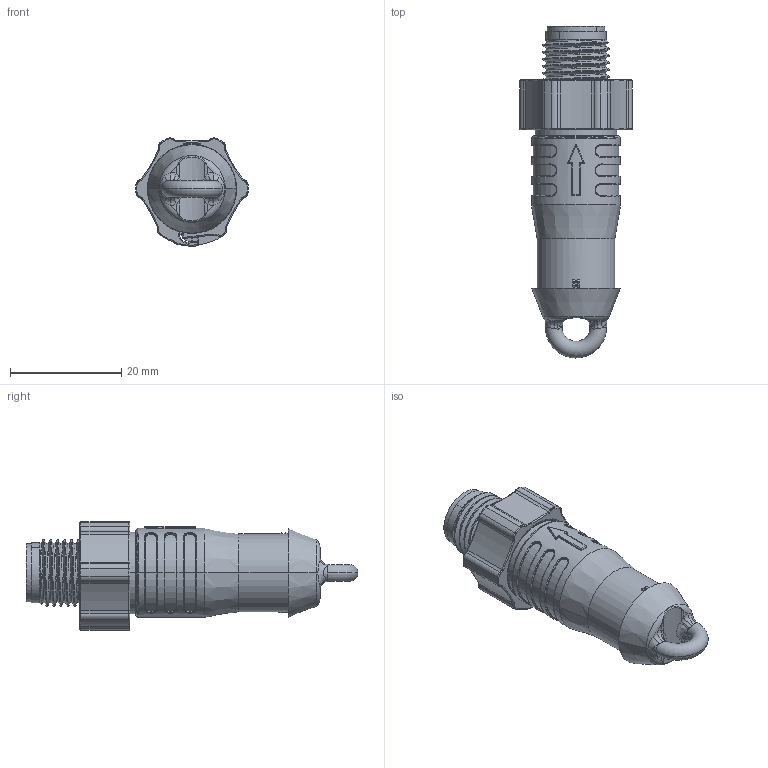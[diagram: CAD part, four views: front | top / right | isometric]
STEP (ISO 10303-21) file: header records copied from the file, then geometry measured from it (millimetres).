
FILE_DESCRIPTION (( 'STEP AP203' ), '1' );
FILE_NAME ('Single_CM113_Plug_EKRx_ESRx.step', '2023-04-05T15:50:40', ( '' ), ( '' ), 'SwSTEP 2.0', 'SolidWorks 2019', '' );
FILE_SCHEMA (( 'CONFIG_CONTROL_DESIGN' ));
Length unit declared in the file: millimetre
Products named in the file (1): Single_CM113_Plug_EKRx_ESRx
Bounding box: 20.2 x 59.65 x 19.49 mm (x, y, z)
Volume: 8477.3 mm3; surface area: 6327.7 mm2
Topology: 2 solids, 3 shells, 1517 faces, 4130 edges, 2594 vertices
Faces by surface type: cylinder 513, plane 445, bspline 242, torus 179, cone 96, sphere 42
Entity records: 58958 total; most frequent: CARTESIAN_POINT 23085, ORIENTED_EDGE 8186, DIRECTION 6858, EDGE_CURVE 4093, AXIS2_PLACEMENT_3D 2707, VERTEX_POINT 2592, EDGE_LOOP 1561, ADVANCED_FACE 1517
